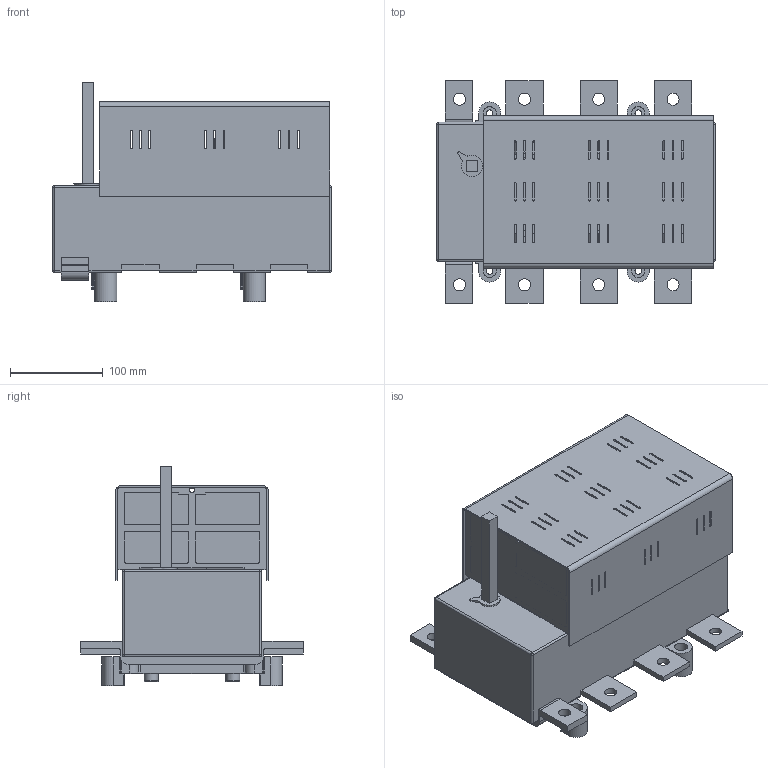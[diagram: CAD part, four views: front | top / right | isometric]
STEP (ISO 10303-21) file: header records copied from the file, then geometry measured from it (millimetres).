
FILE_DESCRIPTION(/* description */ (''),/* implementation_level */ '2;1');
FILE_NAME(/* name */ 'RAB 3 P3 N.stp',/* time_stamp */ '2021-08-19T14:40:16+02:00',/* author */ (''),/* organization */ (''),/* preprocessor_version */ 'ST-DEVELOPER v18.1',/* originating_system */ 'SIEMENS PLM Software NX 1965',/* authorisation */ '');
FILE_SCHEMA (('AUTOMOTIVE_DESIGN { 1 0 10303 214 3 1 1 1 }'));
Length unit declared in the file: millimetre
Products named in the file (1): RAB 3 P3 N_stp
Bounding box: 300 x 240 x 236 mm (x, y, z)
Volume: 4526038.7 mm3; surface area: 645357.1 mm2
Topology: 1 solids, 15 shells, 1572 faces, 4255 edges, 2727 vertices
Faces by surface type: plane 912, cylinder 550, bspline 50, torus 44, cone 8, sphere 8
Full cylindrical faces by diameter (mm): 3 x4, 4.8 x4, 5.2 x2, 5.6 x4, 6.5 x26, 7 x4, 10.5 x26, 13 x8, 13.5 x4, 14 x4, 15 x4
Entity records: 51207 total; most frequent: CARTESIAN_POINT 11449, DIRECTION 8230, ORIENTED_EDGE 8200, EDGE_CURVE 4100, LINE 2776, VECTOR 2776, AXIS2_PLACEMENT_3D 2727, VERTEX_POINT 2698
